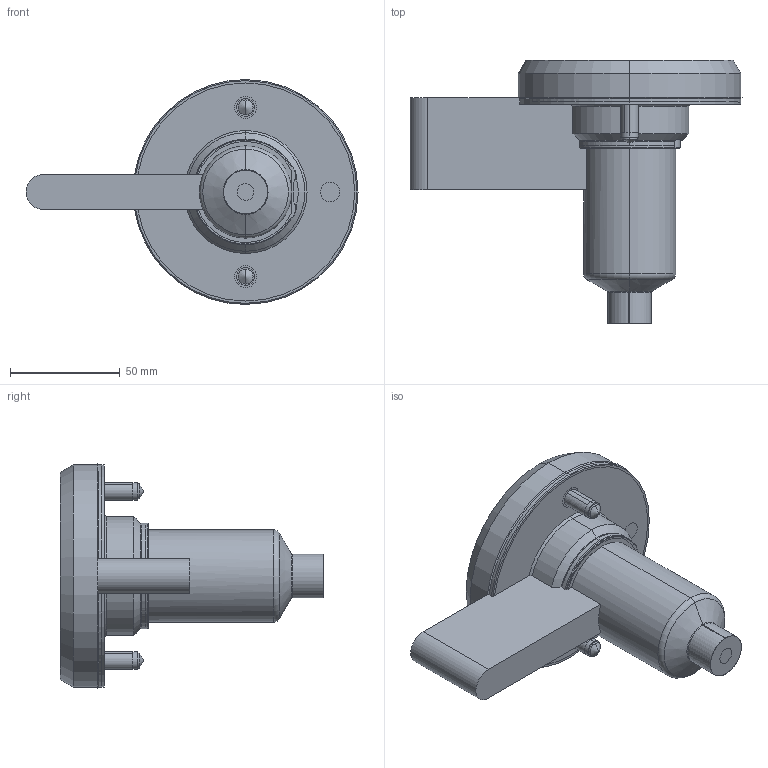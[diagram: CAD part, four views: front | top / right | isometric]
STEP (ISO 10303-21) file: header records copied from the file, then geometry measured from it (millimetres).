
FILE_DESCRIPTION (( 'STEP AP214' ), '1' );
FILE_NAME ('SOHSB16070-SOSRT1602.STEP', '2024-11-28T08:52:09', ( '' ), ( '' ), 'SwSTEP 2.0', 'SolidWorks 2022', '' );
FILE_SCHEMA (( 'AUTOMOTIVE_DESIGN' ));
Length unit declared in the file: millimetre
Products named in the file (9): SOHSB16070-SOSRT1602; EcoONE-HSB16-16006_SONHC16; EcoONE-HSB16-16003(A)_SOHSBNB16070; socket head cap screw_iso_ISO 4762 M8 x 25 - 25N; EcoONE-HSB16-16004_SONH28062; EcoONE-HSB16-Open Gate Cut-out Details_Ext Sprue Gate or Full Body Gate; EcoONE-HSB16-16005_SOTC10350-J; EcoONE-HSB16-Open Gate Extended Sprue Tip_SOSRT1602; EcoONE-HSB16-00002(A)_SOHSBLR16
Assembly tree (10 placements, depth 2):
  SOHSB16070-SOSRT1602
    EcoONE-HSB16-16003(A)_SOHSBNB16070
    EcoONE-HSB16-16004_SONH28062
    EcoONE-HSB16-16005_SOTC10350-J
    EcoONE-HSB16-16006_SONHC16  x2
    EcoONE-HSB16-00002(A)_SOHSBLR16
    socket head cap screw_iso_ISO 4762 M8 x 25 - 25N  x2
    EcoONE-HSB16-Open Gate Extended Sprue Tip_SOSRT1602
    EcoONE-HSB16-Open Gate Cut-out Details_Ext Sprue Gate or Full Body Gate
Bounding box: 151.2 x 120 x 102.4 mm (x, y, z)
Volume: 403848 mm3; surface area: 102947.9 mm2
Topology: 10 solids, 10 shells, 503 faces, 1260 edges, 790 vertices
Faces by surface type: cylinder 155, plane 134, bspline 99, cone 81, torus 26, sphere 8
Entity records: 28977 total; most frequent: CARTESIAN_POINT 17849, ORIENTED_EDGE 2296, DIRECTION 1926, EDGE_CURVE 1148, AXIS2_PLACEMENT_3D 775, VERTEX_POINT 727, EDGE_LOOP 499, FACE_OUTER_BOUND 460
